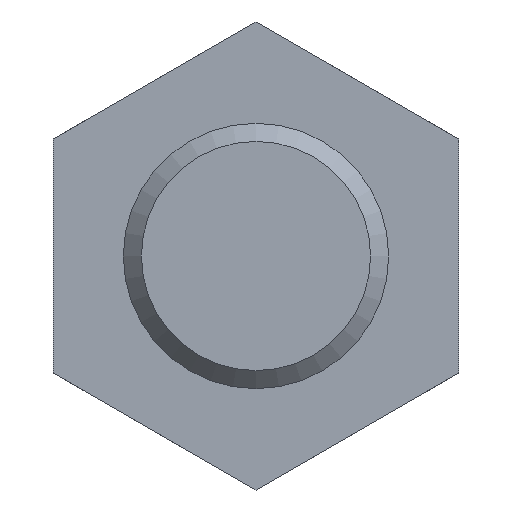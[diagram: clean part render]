
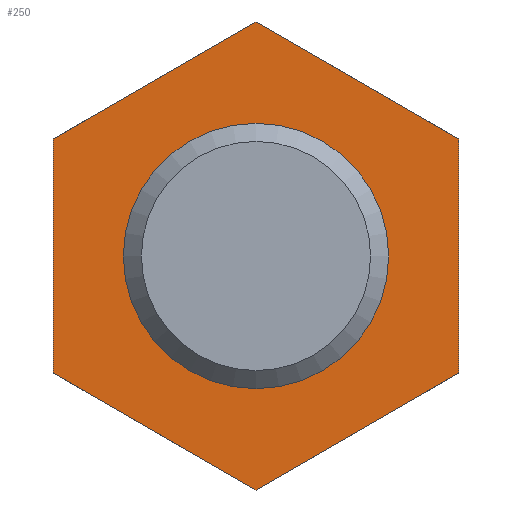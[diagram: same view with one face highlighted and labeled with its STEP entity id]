
A CAD part, front view. The second image highlights one B-rep face of the part: STEP entity #250.
In plain terms, the highlighted planar face has unit normal (0, -1, 0).
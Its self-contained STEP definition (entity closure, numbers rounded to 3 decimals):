
#14=LINE($,#421,#26);
#17=LINE($,#426,#29);
#19=LINE($,#430,#31);
#21=LINE($,#435,#33);
#23=LINE($,#438,#35);
#24=LINE($,#440,#36);
#26=VECTOR($,#322,31.754);
#29=VECTOR($,#327,31.754);
#31=VECTOR($,#331,31.754);
#33=VECTOR($,#335,31.754);
#35=VECTOR($,#339,31.754);
#36=VECTOR($,#342,31.754);
#56=PLANE($,#279);
#61=FACE_BOUND($,#96,.T.);
#62=FACE_BOUND($,#97,.T.);
#96=EDGE_LOOP($,(#215));
#97=EDGE_LOOP($,(#216,#217,#218,#219,#220,#221));
#101=CIRCLE($,#259,18.);
#110=VERTEX_POINT($,#354);
#123=VERTEX_POINT($,#418);
#124=VERTEX_POINT($,#420);
#125=VERTEX_POINT($,#424);
#126=VERTEX_POINT($,#428);
#127=VERTEX_POINT($,#432);
#128=VERTEX_POINT($,#434);
#131=EDGE_CURVE($,#110,#110,#101,.T.);
#151=EDGE_CURVE($,#124,#123,#14,.T.);
#154=EDGE_CURVE($,#123,#125,#17,.T.);
#156=EDGE_CURVE($,#125,#126,#19,.T.);
#158=EDGE_CURVE($,#128,#127,#21,.T.);
#160=EDGE_CURVE($,#127,#124,#23,.T.);
#161=EDGE_CURVE($,#126,#128,#24,.T.);
#215=ORIENTED_EDGE($,*,*,#131,.T.);
#216=ORIENTED_EDGE($,*,*,#161,.T.);
#217=ORIENTED_EDGE($,*,*,#158,.T.);
#218=ORIENTED_EDGE($,*,*,#160,.T.);
#219=ORIENTED_EDGE($,*,*,#151,.T.);
#220=ORIENTED_EDGE($,*,*,#154,.T.);
#221=ORIENTED_EDGE($,*,*,#156,.T.);
#250=ADVANCED_FACE($,(#61,#62),#56,.T.);
#259=AXIS2_PLACEMENT_3D($,#355,#291,#292);
#279=AXIS2_PLACEMENT_3D($,#441,#343,#344);
#291=DIRECTION('center_axis',(0.,1.,0.));
#292=DIRECTION('ref_axis',(-1.,0.,0.));
#322=DIRECTION($,(-0.866,0.,0.5));
#327=DIRECTION($,(-0.866,0.,-0.5));
#331=DIRECTION($,(0.,0.,-1.));
#335=DIRECTION($,(0.866,0.,0.5));
#339=DIRECTION($,(0.,0.,1.));
#342=DIRECTION($,(0.866,0.,-0.5));
#343=DIRECTION('center_axis',(0.,-1.,0.));
#344=DIRECTION('ref_axis',(0.,0.,-1.));
#354=CARTESIAN_POINT('',(18.,0.,0.));
#355=CARTESIAN_POINT('Origin',(0.,0.,0.));
#418=CARTESIAN_POINT('',(0.,0.,31.754));
#420=CARTESIAN_POINT('',(27.5,0.,15.877));
#421=CARTESIAN_POINT($,(27.5,0.,15.877));
#424=CARTESIAN_POINT('',(-27.5,0.,15.877));
#426=CARTESIAN_POINT($,(0.,0.,31.754));
#428=CARTESIAN_POINT('',(-27.5,0.,-15.877));
#430=CARTESIAN_POINT($,(-27.5,0.,15.877));
#432=CARTESIAN_POINT('',(27.5,0.,-15.877));
#434=CARTESIAN_POINT('',(0.,0.,-31.754));
#435=CARTESIAN_POINT($,(0.,0.,-31.754));
#438=CARTESIAN_POINT($,(27.5,0.,-15.877));
#440=CARTESIAN_POINT($,(-27.5,0.,-15.877));
#441=CARTESIAN_POINT('Origin',(0.,0.,0.));
